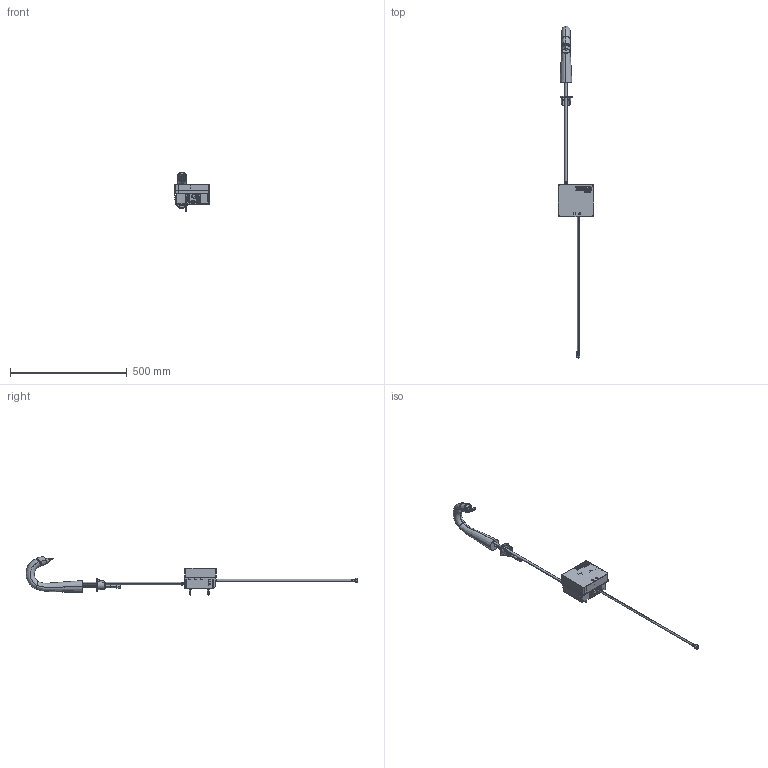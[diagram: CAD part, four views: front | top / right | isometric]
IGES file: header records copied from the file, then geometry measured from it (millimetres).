
Start section:  PTC IGES file: eq-c11a-11abbn_rev020922.igs
Global section: file name: eq-c11a-11abbn_rev020922.igs; native system: Creo Parametric by PTC Inc.; preprocessor: 2021184; author: rodjo; organization: Unknown; date: 20220209.162852; units: inch
Bounding box: 152.7 x 1420.19 x 171.06 mm (x, y, z)
Surface area: 382990.9 mm2 (no closed solid volume)
Topology: 0 solids, 0 shells, 1523 faces, 14795 edges, 20728 vertices
Faces by surface type: bspline 920, revolution 574, extrusion 29
